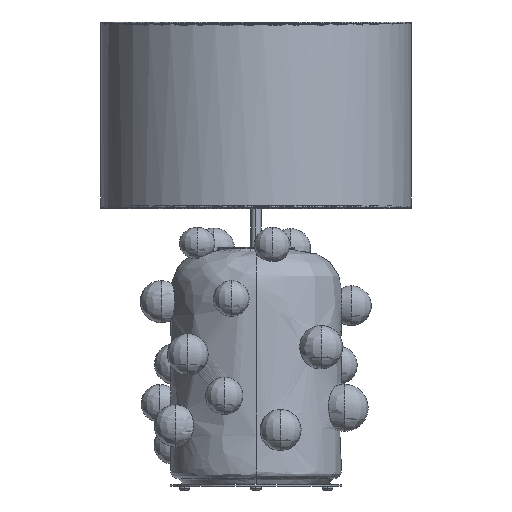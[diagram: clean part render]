
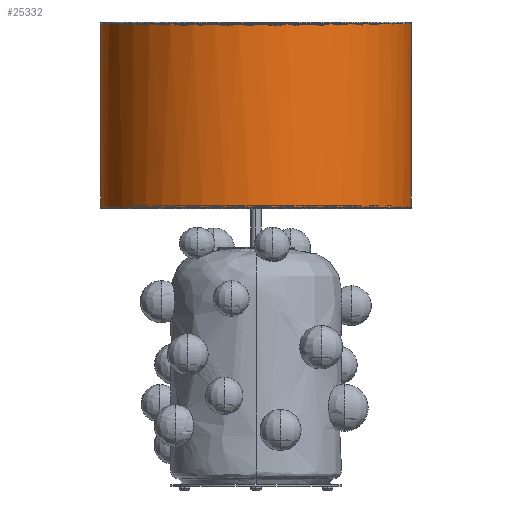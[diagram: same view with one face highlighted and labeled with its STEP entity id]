
A CAD part, left-side view. The second image highlights one B-rep face of the part: STEP entity #25332.
In plain terms, the highlighted free-form (B-spline) face has degree [1, 3] with [2, 4] control points.
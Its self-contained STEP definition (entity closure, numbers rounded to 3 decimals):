
#198 = CARTESIAN_POINT ( 'NONE',  ( 0., 801.314, 200. ) ) ;
#870 = CARTESIAN_POINT ( 'NONE',  ( 0., 565.314, 200. ) ) ;
#1946 = EDGE_LOOP ( 'NONE', ( #14744, #20389, #18782, #17126 ) ) ;
#4335 = CARTESIAN_POINT ( 'NONE',  ( -400., 565.314, 200. ) ) ;
#4627 = VERTEX_POINT ( 'NONE', #13490 ) ;
#4646 = FACE_OUTER_BOUND ( 'NONE', #1946, .T. ) ;
#6801 = CARTESIAN_POINT ( 'NONE',  ( 0., 565.314, -200. ) ) ;
#7954 = CARTESIAN_POINT ( 'NONE',  ( 0., 801.314, -200. ) ) ;
#8048 = CARTESIAN_POINT ( 'NONE',  ( -400., 565.314, 200. ) ) ;
#13057 = B_SPLINE_CURVE_WITH_KNOTS ( 'NONE', 1,
 ( #22573, #17826 ),
 .UNSPECIFIED., .F., .F.,
 ( 2, 2 ),
 ( 0., 1. ),
 .UNSPECIFIED. ) ;
#13490 = CARTESIAN_POINT ( 'NONE',  ( 0., 801.314, -200. ) ) ;
#13677 = CARTESIAN_POINT ( 'NONE',  ( -400., 565.314, -200. ) ) ;
#14744 = ORIENTED_EDGE ( 'NONE', *, *, #27676, .F. ) ;
#14970 = VERTEX_POINT ( 'NONE', #15470 ) ;
#15251 = EDGE_CURVE ( 'NONE', #14970, #27441, #21102, .T. ) ;
#15470 = CARTESIAN_POINT ( 'NONE',  ( 0., 565.314, 200. ) ) ;
#16287 = EDGE_CURVE ( 'NONE', #4627, #19880, #28525, .T. ) ;
#16970 = CARTESIAN_POINT ( 'NONE',  ( 0., 565.314, -200. ) ) ;
#17126 = ORIENTED_EDGE ( 'NONE', *, *, #15251, .F. ) ;
#17826 = CARTESIAN_POINT ( 'NONE',  ( 0., 565.314, 200. ) ) ;
#18782 = ORIENTED_EDGE ( 'NONE', *, *, #26590, .T. ) ;
#19880 = VERTEX_POINT ( 'NONE', #29411 ) ;
#20389 = ORIENTED_EDGE ( 'NONE', *, *, #16287, .F. ) ;
#20449 = CARTESIAN_POINT ( 'NONE',  ( 0., 801.314, -200. ) ) ;
#21037 = CARTESIAN_POINT ( 'NONE',  ( 0., 801.314, -200. ) ) ;
#21102 =( BOUNDED_CURVE ( )  B_SPLINE_CURVE ( 3, ( #870, #8048, #26741, #21114 ),
 .UNSPECIFIED., .F., .F. ) 
 B_SPLINE_CURVE_WITH_KNOTS ( ( 4, 4 ),
 ( 0., 3.142 ),
 .UNSPECIFIED. ) 
 CURVE ( )  GEOMETRIC_REPRESENTATION_ITEM ( )  RATIONAL_B_SPLINE_CURVE ( ( 0.959, 0.32, 0.32, 0.959 ) ) 
 REPRESENTATION_ITEM ( '' )  );
#21114 = CARTESIAN_POINT ( 'NONE',  ( 0., 565.314, -200. ) ) ;
#22573 = CARTESIAN_POINT ( 'NONE',  ( 0., 801.314, 200. ) ) ;
#23063 =( BOUNDED_SURFACE ( )  B_SPLINE_SURFACE ( 1, 3, ( 
 ( #198, #23317, #25474, #21037 ),
 ( #30226, #4335, #13677, #27612 ) ),
 .UNSPECIFIED., .F., .F., .T. ) 
 B_SPLINE_SURFACE_WITH_KNOTS ( ( 2, 2 ),
 ( 4, 4 ),
 ( 0., 1. ),
 ( 0., 1. ),
 .UNSPECIFIED. ) 
 GEOMETRIC_REPRESENTATION_ITEM ( )  RATIONAL_B_SPLINE_SURFACE ( (
 ( 1., 0.333, 0.333, 1.),
 ( 1., 0.333, 0.333, 1.) ) ) 
 REPRESENTATION_ITEM ( '' )  SURFACE ( )  );
#23317 = CARTESIAN_POINT ( 'NONE',  ( -400., 801.314, 200. ) ) ;
#23687 = B_SPLINE_CURVE_WITH_KNOTS ( 'NONE', 1,
 ( #20449, #6801 ),
 .UNSPECIFIED., .F., .F.,
 ( 2, 2 ),
 ( 0., 1. ),
 .UNSPECIFIED. ) ;
#23721 = CARTESIAN_POINT ( 'NONE',  ( -400., 801.314, -200. ) ) ;
#23881 = CARTESIAN_POINT ( 'NONE',  ( -400., 801.314, 200. ) ) ;
#24342 = CARTESIAN_POINT ( 'NONE',  ( 0., 801.314, 200. ) ) ;
#25332 = ADVANCED_FACE ( 'NONE', ( #4646 ), #23063, .F. ) ;
#25474 = CARTESIAN_POINT ( 'NONE',  ( -400., 801.314, -200. ) ) ;
#26590 = EDGE_CURVE ( 'NONE', #4627, #27441, #23687, .T. ) ;
#26741 = CARTESIAN_POINT ( 'NONE',  ( -400., 565.314, -200. ) ) ;
#27441 = VERTEX_POINT ( 'NONE', #16970 ) ;
#27612 = CARTESIAN_POINT ( 'NONE',  ( 0., 565.314, -200. ) ) ;
#27676 = EDGE_CURVE ( 'NONE', #19880, #14970, #13057, .T. ) ;
#28525 =( BOUNDED_CURVE ( )  B_SPLINE_CURVE ( 3, ( #7954, #23721, #23881, #24342 ),
 .UNSPECIFIED., .F., .F. ) 
 B_SPLINE_CURVE_WITH_KNOTS ( ( 4, 4 ),
 ( 0., 3.142 ),
 .UNSPECIFIED. ) 
 CURVE ( )  GEOMETRIC_REPRESENTATION_ITEM ( )  RATIONAL_B_SPLINE_CURVE ( ( 0.959, 0.32, 0.32, 0.959 ) ) 
 REPRESENTATION_ITEM ( '' )  );
#29411 = CARTESIAN_POINT ( 'NONE',  ( 0., 801.314, 200. ) ) ;
#30226 = CARTESIAN_POINT ( 'NONE',  ( 0., 565.314, 200. ) ) ;
